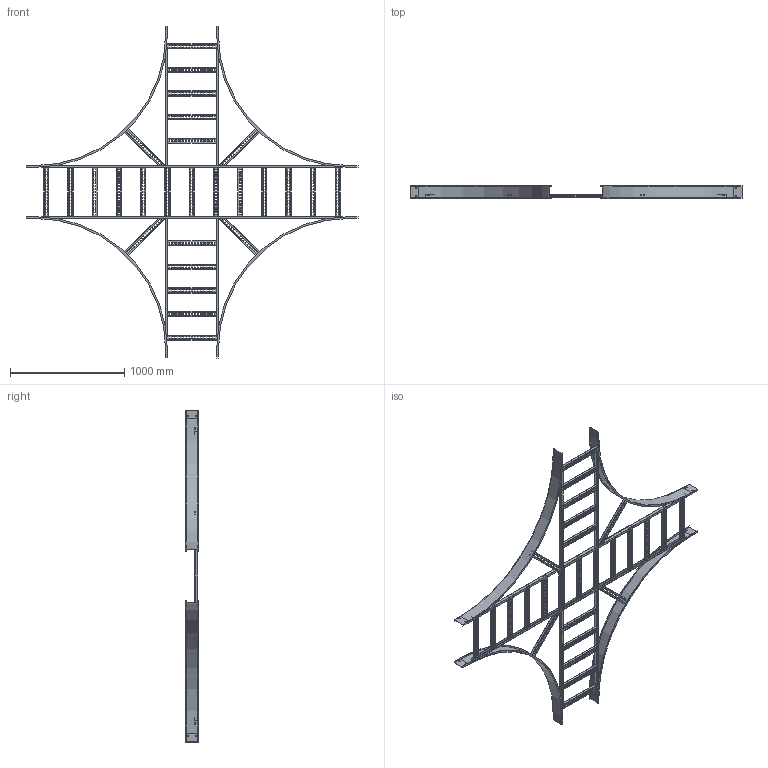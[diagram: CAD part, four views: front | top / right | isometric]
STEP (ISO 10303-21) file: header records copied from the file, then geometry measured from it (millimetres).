
FILE_DESCRIPTION((''),'2;1');
FILE_NAME('AUF418LHX48_ASM','2010-01-27T',('erouzier'),(''),'PRO/ENGINEER BY PARAMETRIC TECHNOLOGY CORPORATION, 2008510','PRO/ENGINEER BY PARAMETRIC TECHNOLOGY CORPORATION, 2008510','');
FILE_SCHEMA(('CONFIG_CONTROL_DESIGN'));
Length unit declared in the file: inch
Products named in the file (26): CDS001319-4-90-45-I; CDS002159L18-P_AF13; CDS002159L18-P_AF14; CDS002159L18-P_AF15; CDS002159L18-P_AF16; CDS002159L18-P_AF22; CDS002159L18-P_AF24; CDS002159L18-P_AF17; CDS002159L18-P_AF18; CDS002159L18-P_AF19; CDS002159L18-P_AF21; CDS002159L18-P_AF23; CDS002159L18-P_AF25; CDS002159L18-P_AF20; CDS000495_GEN_AF18; CDS000495_GEN_AF19; CDS000495_GEN_AF22; CDS000495_GEN_AF23; CDS000495_GEN_AF20; CDS000495_GEN_AF21; CDS002159L24-P_AF6; CDS002159L24-P_AF7; CDS002159L24-P_AF4; CDS002159L24-P_AF5; CDS002159L18-P; AUF418LHX48_ASM
Assembly tree (37 placements, depth 2):
  AUF418LHX48_ASM
    CDS001319-4-90-45-I  x4
    CDS002159L18-P_AF13
    CDS002159L18-P_AF14
    CDS002159L18-P_AF15
    CDS002159L18-P_AF16
    CDS002159L18-P_AF22
    CDS002159L18-P_AF24
    CDS002159L18-P_AF17
    CDS002159L18-P_AF18
    CDS002159L18-P_AF19
    CDS002159L18-P_AF21
    CDS002159L18-P_AF23
    CDS002159L18-P_AF25
    CDS002159L18-P_AF20
    CDS000495_GEN_AF18
    CDS000495_GEN_AF19
    CDS000495_GEN_AF22
    CDS000495_GEN_AF23
    CDS000495_GEN_AF20
    CDS000495_GEN_AF21
    CDS002159L24-P_AF6
    CDS002159L24-P_AF7
    CDS002159L24-P_AF4
    CDS002159L24-P_AF5
    CDS002159L18-P  x10
Bounding box: 2900.17 x 106.05 x 2900.17 mm (x, y, z)
Volume: 5527871.1 mm3; surface area: 6139744.7 mm2
Topology: 37 solids, 37 shells, 4494 faces, 13260 edges, 8840 vertices
Faces by surface type: plane 2441, cylinder 2053
Entity records: 101651 total; most frequent: CARTESIAN_POINT 17945, ORIENTED_EDGE 17520, DIRECTION 17470, EDGE_CURVE 8760, VECTOR 6028, LINE 6028, VERTEX_POINT 5840, AXIS2_PLACEMENT_3D 5721
